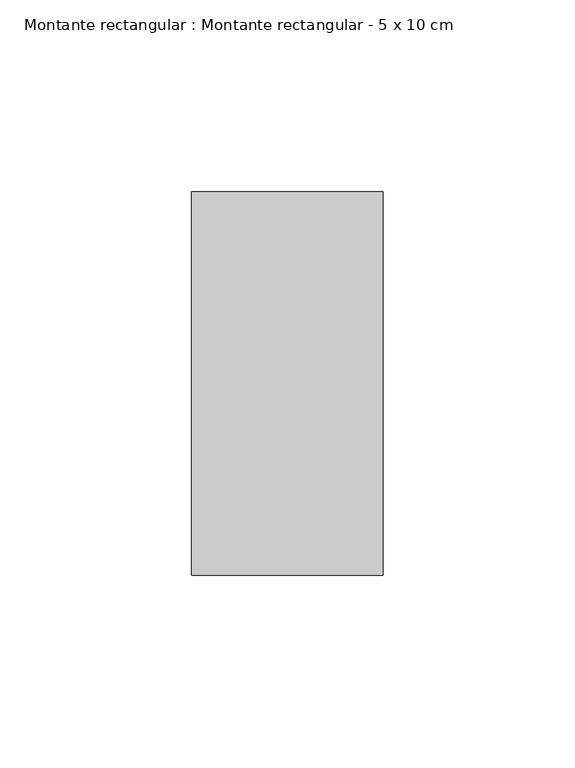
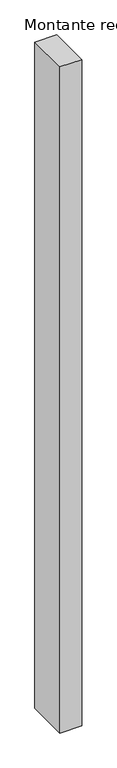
"""IFC4 building model written with IfcOpenShell, lengths in millimetres: member geometry, Montante rectangular : Montante rectangular - 5 x 10 cm."""

from ifc_helpers import new_model, si_unit, frame, origin, place, context, project, spatial, polyline, outline, extrude, source, transform, mapped, element, save


def montante_rectangular_montante_rectangular_5_x_10_cm_6c25c4ab(model_context):
    return source(origin(), model_context, "Body", "SweptSolid", [
        extrude(outline(polyline([(-50.0, 50.0), (0.0, 50.0), (0.0, -50.0), (-50.0, -50.0), (-50.0, 50.0)])), frame((0.0, 0.0, -1625.0), z_axis=(0.0, 0.0, 1.0), x_axis=(1.0, 0.0, 0.0)), (0.0, 0.0, 1.0), 1625.0),
    ])


if __name__ == "__main__":
    model = new_model("IFC4")
    model_context = context("Model", 3, world=origin())
    ifc_project = project(units=[si_unit("LENGTHUNIT", "METRE", prefix="MILLI")], contexts=[model_context])
    site = spatial("IfcSite", under=ifc_project)
    building = spatial("IfcBuilding", under=site)
    placement = place(None, origin())
    montante_rectangular_montante_rectangular_5_x_10_cm_shape = montante_rectangular_montante_rectangular_5_x_10_cm_6c25c4ab(model_context)
    element("IfcMember", 1, ObjectType="Montante rectangular : Montante rectangular - 5 x 10 cm", at=placement, inside=building, context=model_context, shape_type="MappedRepresentation", body=[
        mapped(montante_rectangular_montante_rectangular_5_x_10_cm_shape, transform((0.0, 0.0, 0.0), x_axis=(1.0, 0.0, 0.0), y_axis=(0.0, 1.0, 0.0), z_axis=(0.0, 0.0, 1.0))),
    ])
    save(model, "model.ifc")
